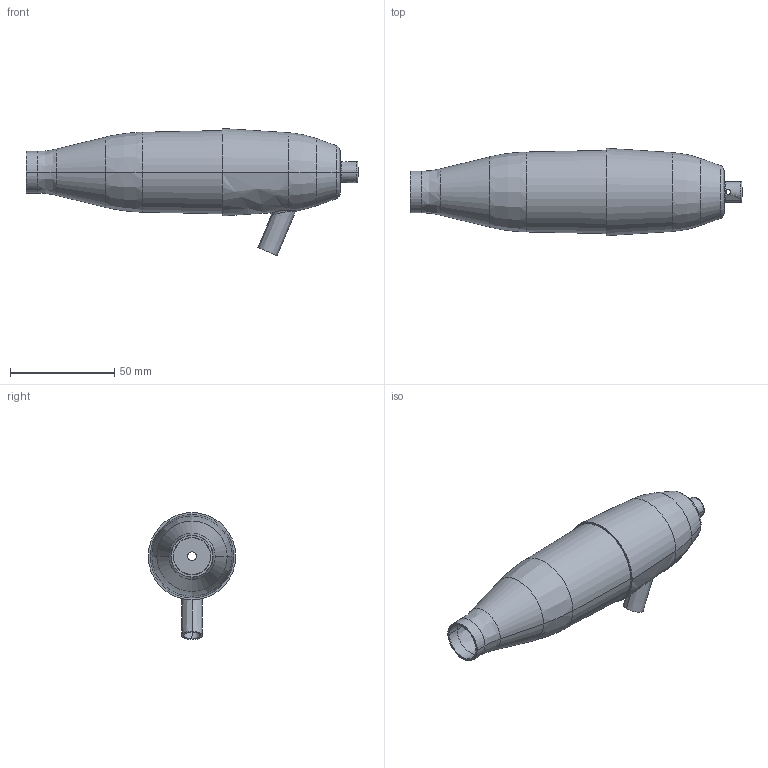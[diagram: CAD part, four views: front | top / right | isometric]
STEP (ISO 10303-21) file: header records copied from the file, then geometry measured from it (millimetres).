
FILE_DESCRIPTION((''),'2;1');
FILE_NAME('POT','2006-03-13T',('tsimon'),(''),'PRO/ENGINEER BY PARAMETRIC TECHNOLOGY CORPORATION, 2005170','PRO/ENGINEER BY PARAMETRIC TECHNOLOGY CORPORATION, 2005170','');
FILE_SCHEMA(('CONFIG_CONTROL_DESIGN'));
Length unit declared in the file: millimetre
Products named in the file (1): POT
Bounding box: 159.5 x 42 x 61.02 mm (x, y, z)
Volume: 17508.5 mm3; surface area: 34464.8 mm2
Topology: 1 solids, 1 shells, 67 faces, 146 edges, 84 vertices
Faces by surface type: bspline 67
Entity records: 4240 total; most frequent: CARTESIAN_POINT 2926, ORIENTED_EDGE 292, DIRECTION 196, EDGE_CURVE 146, VERTEX_POINT 84, AXIS2_PLACEMENT_3D 82, CIRCLE 82, EDGE_LOOP 78
